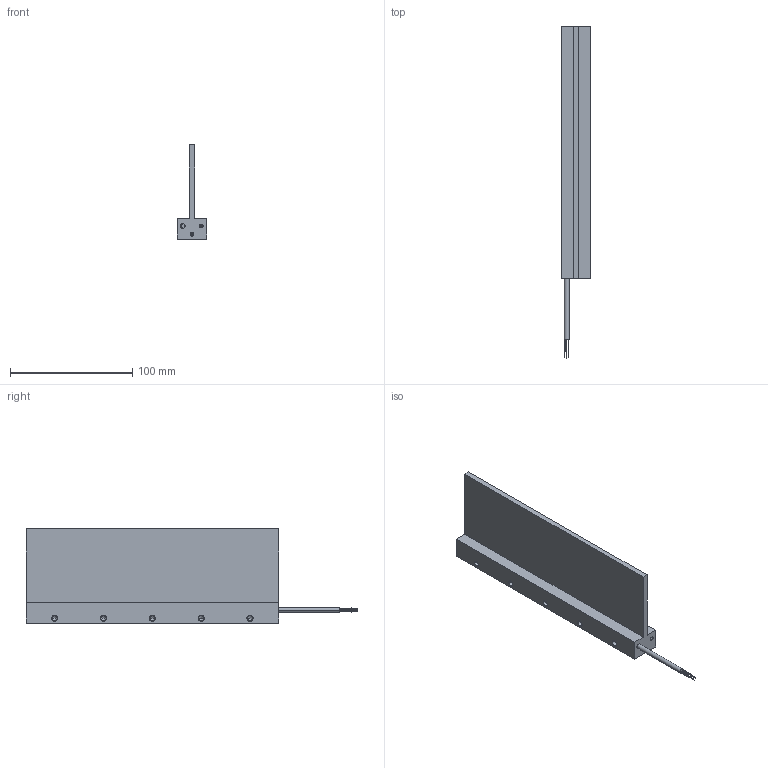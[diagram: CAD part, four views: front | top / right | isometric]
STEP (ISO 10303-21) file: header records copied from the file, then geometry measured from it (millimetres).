
FILE_DESCRIPTION((''),'2;1');
FILE_NAME('IL12-050','2006-04-05T',('saurabh.singhal'),('Kollmorgen'),'PRO/ENGINEER BY PARAMETRIC TECHNOLOGY CORPORATION, 2005310','PRO/ENGINEER BY PARAMETRIC TECHNOLOGY CORPORATION, 2005310','');
FILE_SCHEMA(('CONFIG_CONTROL_DESIGN'));
Length unit declared in the file: millimetre
Products named in the file (1): IL12-050
Bounding box: 24.4 x 271.81 x 77.3 mm (x, y, z)
Volume: 139878.9 mm3; surface area: 47131.4 mm2
Topology: 1 solids, 21 shells, 189 faces, 462 edges, 288 vertices
Faces by surface type: cylinder 106, plane 43, cone 40
Entity records: 5395 total; most frequent: DIRECTION 1054, CARTESIAN_POINT 900, ORIENTED_EDGE 764, AXIS2_PLACEMENT_3D 442, EDGE_CURVE 422, VERTEX_POINT 288, CIRCLE 252, EDGE_LOOP 242
